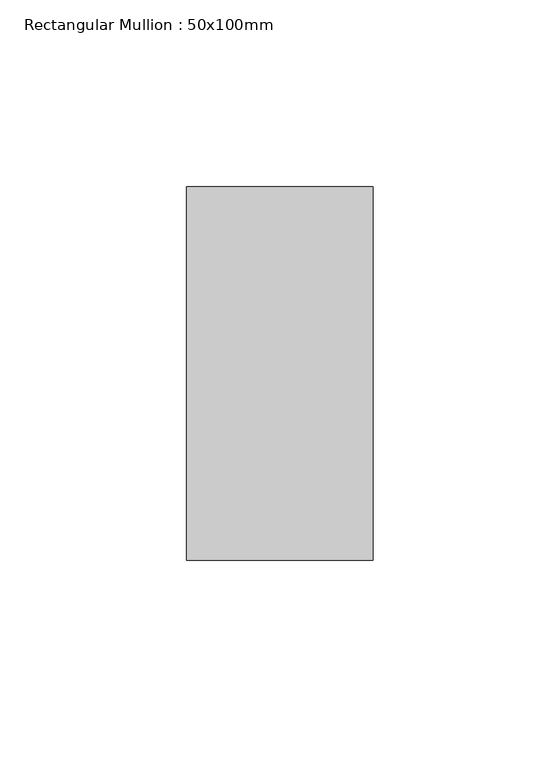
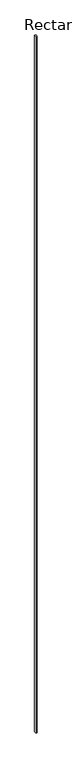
"""IFC4 building model written with IfcOpenShell, lengths in millimetres: member geometry, Rectangular Mullion : 50x100mm."""

import ifcopenshell
import ifcopenshell.guid

model = None  # the IFC model being written
_history = None  # IfcOwnerHistory: only IFC2X3 demands one
_inside = {}  # id of a spatial element -> (the spatial element, [elements in it])
_under = {}  # id of a project, library or spatial element -> (it, [spatial elements below it])
_declared = {}  # id of a project -> (the project, [libraries it declares])
_typed = {}  # id of a type object -> (the type object, [elements of that type])
_made_of = {}  # id of a material, layer set ... -> (it, [elements and type objects made of it])


def new_model(schema):
    """Start an empty IFC model of exactly this schema.

    Asked for "IFC4X3", IfcOpenShell would pick the latest addendum, in which some entities
    have other attributes; the version numbers below select the first issue.
    IFC2X3 requires an IfcOwnerHistory on every rooted entity: one is made here for all.
    """
    global model, _history
    if schema == "IFC4X3":
        model = ifcopenshell.file(schema_version=(4, 3, 0, 0))
    else:
        model = ifcopenshell.file(schema=schema)
    _inside.clear()
    _under.clear()
    _declared.clear()
    _typed.clear()
    _made_of.clear()
    _history = None
    if model.schema == "IFC2X3":
        org = make("IfcOrganization", Name="unknown")
        user = make(
            "IfcPersonAndOrganization",
            ThePerson=make("IfcPerson", FamilyName="unknown"),
            TheOrganization=org,
        )
        app = make(
            "IfcApplication",
            ApplicationDeveloper=org,
            Version="unknown",
            ApplicationFullName="unknown",
            ApplicationIdentifier="unknown",
        )
        _history = make(
            "IfcOwnerHistory",
            OwningUser=user,
            OwningApplication=app,
            ChangeAction="ADDED",
            CreationDate=0,
        )
    return model


def make(cls, **values):
    """One entity of the class cls with the attributes given. An attribute that is None is left unset."""
    return model.create_entity(
        cls, **{name: value for name, value in values.items() if value is not None}
    )


def rooted(cls, **values):
    """An entity with a GlobalId (a new one), such as an element, a storey or a relation."""
    return make(cls, GlobalId=ifcopenshell.guid.new(), OwnerHistory=_history, **values)


def si_unit(unit_type, name, prefix=None):
    """IfcSIUnit, for example si_unit("LENGTHUNIT", "METRE", prefix="MILLI")."""
    return make("IfcSIUnit", UnitType=unit_type, Prefix=prefix, Name=name)


def assignment(units):
    """IfcUnitAssignment: the units of a project."""
    return None if units is None else make("IfcUnitAssignment", Units=units)


def point(xyz):
    """IfcCartesianPoint."""
    return None if xyz is None else make("IfcCartesianPoint", Coordinates=xyz)


def direction(xyz):
    """IfcDirection."""
    return None if xyz is None else make("IfcDirection", DirectionRatios=xyz)


def frame(location, z_axis=None, x_axis=None):
    """IfcAxis2Placement3D, a coordinate frame: its origin and axes. An axis left out is left unset."""
    return make(
        "IfcAxis2Placement3D",
        Location=point(location),
        Axis=direction(z_axis),
        RefDirection=direction(x_axis),
    )


def origin():
    """The frame at (0, 0, 0) with its axes left unset."""
    return frame((0.0, 0.0, 0.0))


def place(relative_to, where):
    """IfcLocalPlacement: puts the frame where relative to a parent placement (None: the world)."""
    return make(
        "IfcLocalPlacement", PlacementRelTo=relative_to, RelativePlacement=where
    )


def context(
    kind, dimensions, precision=None, world=None, true_north=None, identifier=None
):
    """IfcGeometricRepresentationContext, for example the 3D "Model" context."""
    return make(
        "IfcGeometricRepresentationContext",
        ContextIdentifier=identifier,
        ContextType=kind,
        CoordinateSpaceDimension=dimensions,
        Precision=precision,
        WorldCoordinateSystem=world,
        TrueNorth=true_north,
    )


def project(units=None, contexts=None):
    """IfcProject with its units and contexts."""
    return rooted(
        "IfcProject",
        Name="project",
        RepresentationContexts=contexts,
        UnitsInContext=assignment(units),
    )


def spatial(cls, under=None, at=None, **own):
    """A site, building, storey or space (cls), placed at a placement, below another one or the project."""
    s = rooted(cls, ObjectPlacement=at, **own)
    if under is not None:
        _under.setdefault(under.id(), (under, []))[1].append(s)
    return s


def polyline(points):
    """IfcPolyline through the points."""
    return make("IfcPolyline", Points=[point(p) for p in points])


def outline(outer, holes=None, kind="AREA"):
    """IfcArbitraryClosedProfileDef: a profile drawn as a closed curve; with holes, ...WithVoids."""
    if holes is None:
        return make("IfcArbitraryClosedProfileDef", ProfileType=kind, OuterCurve=outer)
    return make(
        "IfcArbitraryProfileDefWithVoids",
        ProfileType=kind,
        OuterCurve=outer,
        InnerCurves=holes,
    )


def extrude(swept, where, along, depth):
    """IfcExtrudedAreaSolid: the profile swept, set in the frame where, extruded along a direction by depth."""
    return make(
        "IfcExtrudedAreaSolid",
        SweptArea=swept,
        Position=where,
        ExtrudedDirection=direction(along),
        Depth=depth,
    )


def shape(context_of_items, identifier, shape_type, items):
    """IfcShapeRepresentation: the items that make up one representation, for example the "Body"."""
    return make(
        "IfcShapeRepresentation",
        ContextOfItems=context_of_items,
        RepresentationIdentifier=identifier,
        RepresentationType=shape_type,
        Items=items,
    )


def source(mapping_origin, context_of_items, identifier, shape_type, items):
    """IfcRepresentationMap: a shape defined once, which mapped items show again and again."""
    return make(
        "IfcRepresentationMap",
        MappingOrigin=mapping_origin,
        MappedRepresentation=shape(context_of_items, identifier, shape_type, items),
    )


def transform(
    local_origin,
    x_axis=None,
    y_axis=None,
    z_axis=None,
    scale=None,
    scale2=None,
    scale3=None,
    uniform=True,
):
    """IfcCartesianTransformationOperator3D, or its non-uniform kind. x_axis, y_axis, z_axis: its Axis1, 2, 3."""
    if uniform:
        return make(
            "IfcCartesianTransformationOperator3D",
            Axis1=direction(x_axis),
            Axis2=direction(y_axis),
            LocalOrigin=point(local_origin),
            Scale=scale,
            Axis3=direction(z_axis),
        )
    return make(
        "IfcCartesianTransformationOperator3DnonUniform",
        Axis1=direction(x_axis),
        Axis2=direction(y_axis),
        LocalOrigin=point(local_origin),
        Scale=scale,
        Axis3=direction(z_axis),
        Scale2=scale2,
        Scale3=scale3,
    )


def mapped(mapping_source, mapping_target):
    """IfcMappedItem: shows the shape of a source again, moved by a transform."""
    return make(
        "IfcMappedItem", MappingSource=mapping_source, MappingTarget=mapping_target
    )


def made_of(thing, what):
    """Note that an element or type object is made of a material, layer set ...; save() writes the relation."""
    if what is not None:
        _made_of.setdefault(what.id(), (what, []))[1].append(thing)
    return thing


def element(
    cls,
    number,
    at=None,
    inside=None,
    cuts=None,
    type_object=None,
    material=None,
    context=None,
    identifier="Body",
    shape_type=None,
    held_by="IfcProductDefinitionShape",
    body=None,
    shapes=None,
    **own,
):
    """One element of the class cls, such as IfcWall. Its Tag is "e" and its number.

    at: its placement. inside: the storey or other place that contains it. cuts: it is an
    opening in that element (IfcRelVoidsElement). A single representation is given by context,
    identifier, shape_type and body (its items); several are given by shapes. held_by: the class
    of the entity that holds the representations. save() writes the other relations.
    """
    e = rooted(cls, Tag="e%d" % number, ObjectPlacement=at, **own)
    if body is not None:
        shapes = [shape(context, identifier, shape_type, body)]
    if shapes is not None:
        e.Representation = make(held_by, Representations=shapes)
    if inside is not None:
        _inside.setdefault(inside.id(), (inside, []))[1].append(e)
    if cuts is not None:
        rooted(
            "IfcRelVoidsElement", RelatingBuildingElement=cuts, RelatedOpeningElement=e
        )
    if type_object is not None:
        _typed.setdefault(type_object.id(), (type_object, []))[1].append(e)
    return made_of(e, material)


def aggregate(whole, parts):
    """IfcRelAggregates: a whole, such as a stair, and the parts it consists of."""
    return rooted("IfcRelAggregates", RelatingObject=whole, RelatedObjects=parts)


def save(model, path):
    """Write the relations noted so far, then the file.

    IfcRelAggregates (storeys below a building ...), IfcRelContainedInSpatialStructure (elements
    in a storey), IfcRelDefinesByType, IfcRelAssociatesMaterial and IfcRelDeclares: one each for
    every whole, place, type object, material and project.
    """
    for whole, parts in _under.values():
        aggregate(whole, parts)
    for where, things in _inside.values():
        rooted(
            "IfcRelContainedInSpatialStructure",
            RelatedElements=things,
            RelatingStructure=where,
        )
    for kind, things in _typed.values():
        rooted("IfcRelDefinesByType", RelatedObjects=things, RelatingType=kind)
    for what, things in _made_of.values():
        rooted("IfcRelAssociatesMaterial", RelatedObjects=things, RelatingMaterial=what)
    for by, libraries in _declared.values():
        rooted("IfcRelDeclares", RelatingContext=by, RelatedDefinitions=libraries)
    model.write(path)


def rectangular_mullion_50x100mm_c9b5afd1(model_context):
    return source(origin(), model_context, "Body", "SweptSolid", [
        extrude(outline(polyline([(25.0, 50.0), (25.0, -50.0), (-25.0, -50.0), (-25.0, 50.0), (25.0, 50.0)])), frame((0.0, 0.0, -32626.7731288), z_axis=(0.0, 0.0, 1.0), x_axis=(1.0, 0.0, 0.0)), (0.0, 0.0, 1.0), 32626.7731288),
    ])


if __name__ == "__main__":
    model = new_model("IFC4")
    model_context = context("Model", 3, world=origin())
    ifc_project = project(units=[si_unit("LENGTHUNIT", "METRE", prefix="MILLI")], contexts=[model_context])
    site = spatial("IfcSite", under=ifc_project)
    building = spatial("IfcBuilding", under=site)
    placement = place(None, origin())
    rectangular_mullion_50x100mm_shape = rectangular_mullion_50x100mm_c9b5afd1(model_context)
    element("IfcMember", 1, ObjectType="Rectangular Mullion : 50x100mm", at=placement, inside=building, context=model_context, shape_type="MappedRepresentation", body=[
        mapped(rectangular_mullion_50x100mm_shape, transform((0.0, 0.0, 0.0), x_axis=(1.0, 0.0, 0.0), y_axis=(0.0, 1.0, 0.0), z_axis=(0.0, 0.0, 1.0))),
    ])
    save(model, "model.ifc")
